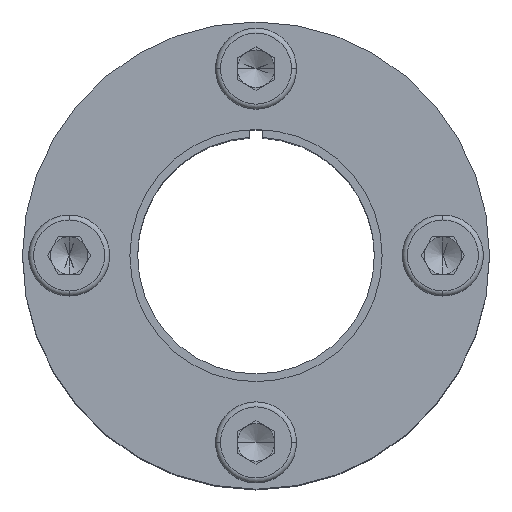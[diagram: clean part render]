
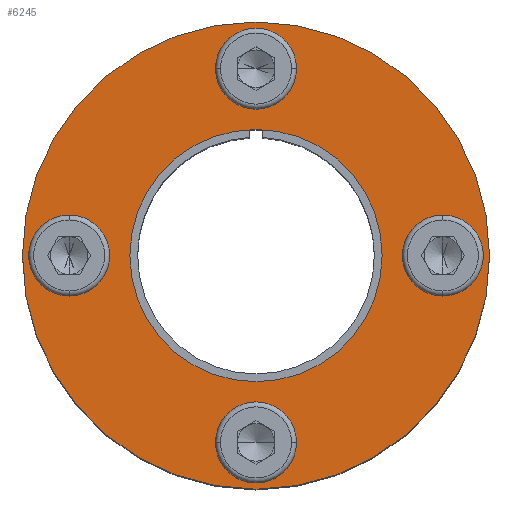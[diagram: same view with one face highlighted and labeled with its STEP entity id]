
A CAD part, top view. The second image highlights one B-rep face of the part: STEP entity #6245.
In plain terms, the highlighted planar face has unit normal (0, 0, 1).
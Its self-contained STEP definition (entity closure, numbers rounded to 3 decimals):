
#84 = AXIS2_PLACEMENT_3D ( 'NONE', #1768, #5345, #2295 ) ;
#89 = DIRECTION ( 'NONE',  ( 0., 0., -1. ) ) ;
#137 = CARTESIAN_POINT ( 'NONE',  ( 0., 30., 73.427 ) ) ;
#142 = CIRCLE ( 'NONE', #1589, 20.248 ) ;
#192 = AXIS2_PLACEMENT_3D ( 'NONE', #5751, #2695, #6252 ) ;
#250 = DIRECTION ( 'NONE',  ( 0., 0., -1. ) ) ;
#276 = VERTEX_POINT ( 'NONE', #5973 ) ;
#403 = CARTESIAN_POINT ( 'NONE',  ( 4.5, 30., 73.427 ) ) ;
#539 = DIRECTION ( 'NONE',  ( 0., 0., -1. ) ) ;
#566 = EDGE_CURVE ( 'NONE', #2526, #6427, #2673, .T. ) ;
#640 = EDGE_CURVE ( 'NONE', #1787, #799, #1546, .T. ) ;
#655 = CIRCLE ( 'NONE', #2250, 4.5 ) ;
#661 = DIRECTION ( 'NONE',  ( 1., 0., 0. ) ) ;
#721 = ORIENTED_EDGE ( 'NONE', *, *, #1036, .T. ) ;
#733 = AXIS2_PLACEMENT_3D ( 'NONE', #5247, #2174, #5755 ) ;
#736 = CARTESIAN_POINT ( 'NONE',  ( 0., 0., 73.427 ) ) ;
#794 = FACE_BOUND ( 'NONE', #2691, .T. ) ;
#799 = VERTEX_POINT ( 'NONE', #403 ) ;
#970 = FACE_BOUND ( 'NONE', #4066, .T. ) ;
#1036 = EDGE_CURVE ( 'NONE', #2198, #6113, #655, .T. ) ;
#1066 = CIRCLE ( 'NONE', #4573, 4.5 ) ;
#1103 = ORIENTED_EDGE ( 'NONE', *, *, #5061, .T. ) ;
#1137 = DIRECTION ( 'NONE',  ( 0., 0., -1. ) ) ;
#1249 = EDGE_LOOP ( 'NONE', ( #5013, #1921 ) ) ;
#1255 = DIRECTION ( 'NONE',  ( 1., 0., 0. ) ) ;
#1270 = CARTESIAN_POINT ( 'NONE',  ( 4.5, -30., 73.427 ) ) ;
#1439 = DIRECTION ( 'NONE',  ( 0., 0., -1. ) ) ;
#1546 = CIRCLE ( 'NONE', #4025, 4.5 ) ;
#1565 = ORIENTED_EDGE ( 'NONE', *, *, #2660, .T. ) ;
#1589 = AXIS2_PLACEMENT_3D ( 'NONE', #4200, #1137, #4702 ) ;
#1638 = CIRCLE ( 'NONE', #1874, 4.5 ) ;
#1657 = CARTESIAN_POINT ( 'NONE',  ( 0., -30., 73.427 ) ) ;
#1768 = CARTESIAN_POINT ( 'NONE',  ( 0., 0., 73.427 ) ) ;
#1787 = VERTEX_POINT ( 'NONE', #2397 ) ;
#1798 = CIRCLE ( 'NONE', #192, 4.5 ) ;
#1840 = EDGE_CURVE ( 'NONE', #5476, #5309, #1066, .T. ) ;
#1874 = AXIS2_PLACEMENT_3D ( 'NONE', #1886, #5461, #2399 ) ;
#1885 = CIRCLE ( 'NONE', #4149, 37.5 ) ;
#1886 = CARTESIAN_POINT ( 'NONE',  ( 0., -30., 73.427 ) ) ;
#1921 = ORIENTED_EDGE ( 'NONE', *, *, #6032, .F. ) ;
#1953 = VERTEX_POINT ( 'NONE', #6125 ) ;
#2156 = FACE_BOUND ( 'NONE', #5573, .T. ) ;
#2166 = DIRECTION ( 'NONE',  ( 1., 0., 0. ) ) ;
#2174 = DIRECTION ( 'NONE',  ( 0., 0., -1. ) ) ;
#2198 = VERTEX_POINT ( 'NONE', #1270 ) ;
#2230 = ORIENTED_EDGE ( 'NONE', *, *, #3139, .T. ) ;
#2250 = AXIS2_PLACEMENT_3D ( 'NONE', #1657, #5229, #2166 ) ;
#2295 = DIRECTION ( 'NONE',  ( 1., 0., 0. ) ) ;
#2319 = FACE_BOUND ( 'NONE', #3825, .T. ) ;
#2397 = CARTESIAN_POINT ( 'NONE',  ( -4.5, 30., 73.427 ) ) ;
#2399 = DIRECTION ( 'NONE',  ( 1., 0., 0. ) ) ;
#2400 = ORIENTED_EDGE ( 'NONE', *, *, #566, .T. ) ;
#2526 = VERTEX_POINT ( 'NONE', #4601 ) ;
#2576 = ORIENTED_EDGE ( 'NONE', *, *, #640, .T. ) ;
#2625 = EDGE_CURVE ( 'NONE', #6427, #2526, #142, .T. ) ;
#2660 = EDGE_CURVE ( 'NONE', #799, #1787, #6300, .T. ) ;
#2673 = CIRCLE ( 'NONE', #2890, 20.248 ) ;
#2691 = EDGE_LOOP ( 'NONE', ( #2400, #4677 ) ) ;
#2695 = DIRECTION ( 'NONE',  ( 0., 0., -1. ) ) ;
#2871 = DIRECTION ( 'NONE',  ( 0., 0., -1. ) ) ;
#2890 = AXIS2_PLACEMENT_3D ( 'NONE', #736, #4326, #1255 ) ;
#3101 = EDGE_CURVE ( 'NONE', #276, #5482, #5038, .T. ) ;
#3139 = EDGE_CURVE ( 'NONE', #5482, #276, #5753, .T. ) ;
#3177 = CARTESIAN_POINT ( 'NONE',  ( -30., 0., 73.427 ) ) ;
#3308 = AXIS2_PLACEMENT_3D ( 'NONE', #137, #3745, #661 ) ;
#3320 = VERTEX_POINT ( 'NONE', #4878 ) ;
#3330 = CARTESIAN_POINT ( 'NONE',  ( 0., 0., 73.427 ) ) ;
#3609 = CARTESIAN_POINT ( 'NONE',  ( 0., 0., 73.427 ) ) ;
#3695 = DIRECTION ( 'NONE',  ( 1., 0., 0. ) ) ;
#3745 = DIRECTION ( 'NONE',  ( 0., 0., -1. ) ) ;
#3825 = EDGE_LOOP ( 'NONE', ( #2230, #6029 ) ) ;
#3854 = DIRECTION ( 'NONE',  ( 1., 0., 0. ) ) ;
#4025 = AXIS2_PLACEMENT_3D ( 'NONE', #5921, #2871, #6432 ) ;
#4066 = EDGE_LOOP ( 'NONE', ( #721, #4145 ) ) ;
#4117 = DIRECTION ( 'NONE',  ( 1., 0., 0. ) ) ;
#4145 = ORIENTED_EDGE ( 'NONE', *, *, #5188, .T. ) ;
#4149 = AXIS2_PLACEMENT_3D ( 'NONE', #3330, #250, #3854 ) ;
#4182 = CARTESIAN_POINT ( 'NONE',  ( -4.5, -30., 73.427 ) ) ;
#4200 = CARTESIAN_POINT ( 'NONE',  ( 0., 0., 73.427 ) ) ;
#4253 = AXIS2_PLACEMENT_3D ( 'NONE', #3609, #539, #4117 ) ;
#4311 = PLANE ( 'NONE',  #84 ) ;
#4326 = DIRECTION ( 'NONE',  ( 0., 0., -1. ) ) ;
#4504 = CARTESIAN_POINT ( 'NONE',  ( 30., 0., 73.427 ) ) ;
#4573 = AXIS2_PLACEMENT_3D ( 'NONE', #4504, #1439, #5016 ) ;
#4601 = CARTESIAN_POINT ( 'NONE',  ( 20.248, 0., 73.427 ) ) ;
#4628 = EDGE_CURVE ( 'NONE', #3320, #1953, #1885, .T. ) ;
#4631 = CARTESIAN_POINT ( 'NONE',  ( -25.5, 0., 73.427 ) ) ;
#4677 = ORIENTED_EDGE ( 'NONE', *, *, #2625, .T. ) ;
#4702 = DIRECTION ( 'NONE',  ( 1., 0., 0. ) ) ;
#4871 = FACE_BOUND ( 'NONE', #6581, .T. ) ;
#4878 = CARTESIAN_POINT ( 'NONE',  ( -37.5, 0., 73.427 ) ) ;
#4977 = AXIS2_PLACEMENT_3D ( 'NONE', #3177, #89, #3695 ) ;
#5013 = ORIENTED_EDGE ( 'NONE', *, *, #4628, .F. ) ;
#5016 = DIRECTION ( 'NONE',  ( 1., 0., 0. ) ) ;
#5038 = CIRCLE ( 'NONE', #4977, 4.5 ) ;
#5061 = EDGE_CURVE ( 'NONE', #5309, #5476, #1798, .T. ) ;
#5188 = EDGE_CURVE ( 'NONE', #6113, #2198, #1638, .T. ) ;
#5229 = DIRECTION ( 'NONE',  ( 0., 0., -1. ) ) ;
#5247 = CARTESIAN_POINT ( 'NONE',  ( -30., 0., 73.427 ) ) ;
#5309 = VERTEX_POINT ( 'NONE', #5527 ) ;
#5345 = DIRECTION ( 'NONE',  ( 0., 0., -1. ) ) ;
#5461 = DIRECTION ( 'NONE',  ( 0., 0., -1. ) ) ;
#5476 = VERTEX_POINT ( 'NONE', #6632 ) ;
#5482 = VERTEX_POINT ( 'NONE', #4631 ) ;
#5527 = CARTESIAN_POINT ( 'NONE',  ( 25.5, 0., 73.427 ) ) ;
#5573 = EDGE_LOOP ( 'NONE', ( #1565, #2576 ) ) ;
#5751 = CARTESIAN_POINT ( 'NONE',  ( 30., 0., 73.427 ) ) ;
#5753 = CIRCLE ( 'NONE', #733, 4.5 ) ;
#5755 = DIRECTION ( 'NONE',  ( 1., 0., 0. ) ) ;
#5839 = CIRCLE ( 'NONE', #4253, 37.5 ) ;
#5921 = CARTESIAN_POINT ( 'NONE',  ( 0., 30., 73.427 ) ) ;
#5973 = CARTESIAN_POINT ( 'NONE',  ( -34.5, 0., 73.427 ) ) ;
#6029 = ORIENTED_EDGE ( 'NONE', *, *, #3101, .T. ) ;
#6032 = EDGE_CURVE ( 'NONE', #1953, #3320, #5839, .T. ) ;
#6074 = FACE_OUTER_BOUND ( 'NONE', #1249, .T. ) ;
#6113 = VERTEX_POINT ( 'NONE', #4182 ) ;
#6125 = CARTESIAN_POINT ( 'NONE',  ( 37.5, 0., 73.427 ) ) ;
#6198 = ORIENTED_EDGE ( 'NONE', *, *, #1840, .T. ) ;
#6245 = ADVANCED_FACE ( 'NONE', ( #2319, #2156, #4871, #970, #794, #6074 ), #4311, .F. ) ;
#6252 = DIRECTION ( 'NONE',  ( 1., 0., 0. ) ) ;
#6300 = CIRCLE ( 'NONE', #3308, 4.5 ) ;
#6427 = VERTEX_POINT ( 'NONE', #6484 ) ;
#6432 = DIRECTION ( 'NONE',  ( 1., 0., 0. ) ) ;
#6484 = CARTESIAN_POINT ( 'NONE',  ( -20.248, 0., 73.427 ) ) ;
#6581 = EDGE_LOOP ( 'NONE', ( #6198, #1103 ) ) ;
#6632 = CARTESIAN_POINT ( 'NONE',  ( 34.5, 0., 73.427 ) ) ;
